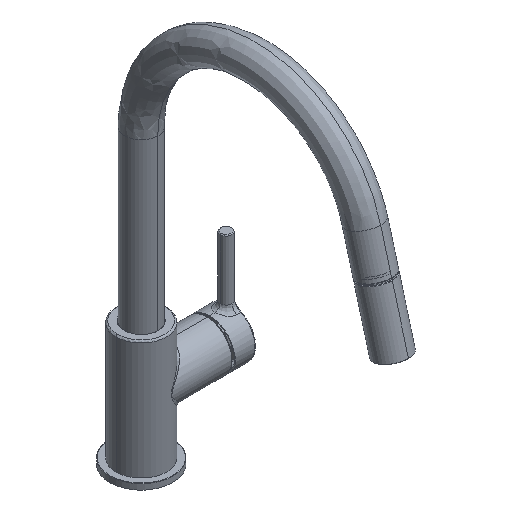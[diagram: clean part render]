
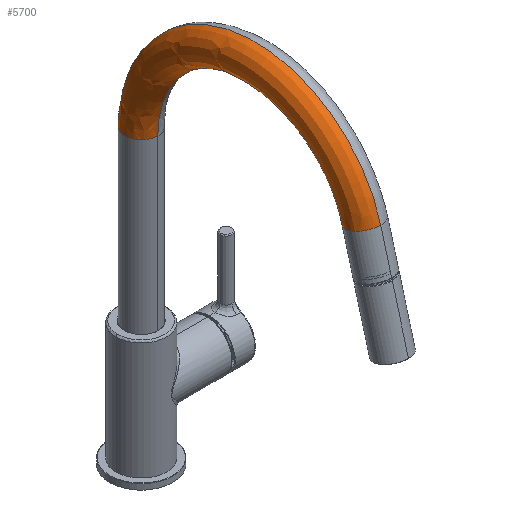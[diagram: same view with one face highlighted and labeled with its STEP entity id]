
A CAD part, isometric view. The second image highlights one B-rep face of the part: STEP entity #5700.
In plain terms, the highlighted free-form (B-spline) face has degree [2, 2] with [9, 9] control points.
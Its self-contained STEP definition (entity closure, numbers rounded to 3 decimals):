
#5700=ADVANCED_FACE('',(#11007),#86084,.T.);
#11007=FACE_OUTER_BOUND('',#16778,.T.);
#16778=EDGE_LOOP('',(#43765,#43766,#43767,#43768));
#43765=ORIENTED_EDGE('',*,*,#58449,.F.);
#43766=ORIENTED_EDGE('',*,*,#58453,.T.);
#43767=ORIENTED_EDGE('',*,*,#58452,.T.);
#43768=ORIENTED_EDGE('',*,*,#58454,.F.);
#58449=EDGE_CURVE('',#84289,#84290,#61158,.T.);
#58452=EDGE_CURVE('',#84291,#84292,#61160,.T.);
#58453=EDGE_CURVE('',#84289,#84291,#61161,.T.);
#58454=EDGE_CURVE('',#84290,#84292,#61162,.T.);
#61158=TRIMMED_CURVE($,#63514,(#244795),(#244796),.T.,.CARTESIAN.);
#61160=TRIMMED_CURVE($,#63516,(#244856),(#244857),.T.,.CARTESIAN.);
#61161=TRIMMED_CURVE($,#63517,(#244859),(#244860),.T.,.CARTESIAN.);
#61162=TRIMMED_CURVE($,#63518,(#244862),(#244863),.T.,.CARTESIAN.);
#63514=CIRCLE('',#97662,14.);
#63516=CIRCLE('',#97664,14.);
#63517=CIRCLE('',#97665,83.);
#63518=CIRCLE('',#97666,111.);
#84289=VERTEX_POINT('',#244519);
#84290=VERTEX_POINT('',#244520);
#84291=VERTEX_POINT('',#244521);
#84292=VERTEX_POINT('',#244522);
#86084=(
BOUNDED_SURFACE()
B_SPLINE_SURFACE(2,2,((#244031,#244032,#244033,#244034,#244035,#244036,
#244037,#244038,#244039),(#244040,#244041,#244042,#244043,#244044,#244045,
#244046,#244047,#244048),(#244049,#244050,#244051,#244052,#244053,#244054,
#244055,#244056,#244057),(#244058,#244059,#244060,#244061,#244062,#244063,
#244064,#244065,#244066),(#244067,#244068,#244069,#244070,#244071,#244072,
#244073,#244074,#244075),(#244076,#244077,#244078,#244079,#244080,#244081,
#244082,#244083,#244084),(#244085,#244086,#244087,#244088,#244089,#244090,
#244091,#244092,#244093),(#244094,#244095,#244096,#244097,#244098,#244099,
#244100,#244101,#244102),(#244103,#244104,#244105,#244106,#244107,#244108,
#244109,#244110,#244111)),.UNSPECIFIED.,.T.,.F.,.F.)
B_SPLINE_SURFACE_WITH_KNOTS((3,2,2,2,3),(3,2,2,2,3),(0.,152.367,
304.734,457.102,609.469),(0.,21.991,
43.982,65.973,87.965),.UNSPECIFIED.)
GEOMETRIC_REPRESENTATION_ITEM()
RATIONAL_B_SPLINE_SURFACE(((1.,0.707,1.,0.707,1.,
0.707,1.,0.707,1.),(0.707,0.5,0.707,
0.5,0.707,0.5,0.707,0.5,0.707),(1.,
0.707,1.,0.707,1.,0.707,1.,0.707,
1.),(0.707,0.5,0.707,0.5,0.707,0.5,
0.707,0.5,0.707),(1.,0.707,1.,0.707,
1.,0.707,1.,0.707,1.),(0.707,0.5,0.707,
0.5,0.707,0.5,0.707,0.5,0.707),(1.,
0.707,1.,0.707,1.,0.707,1.,0.707,
1.),(0.707,0.5,0.707,0.5,0.707,0.5,
0.707,0.5,0.707),(1.,0.707,1.,0.707,
1.,0.707,1.,0.707,1.)))
REPRESENTATION_ITEM('')
SURFACE()
);
#97662=AXIS2_PLACEMENT_3D($,#244794,#106482,#106483);
#97664=AXIS2_PLACEMENT_3D($,#244855,#106486,#106487);
#97665=AXIS2_PLACEMENT_3D($,#244858,#106488,#106489);
#97666=AXIS2_PLACEMENT_3D($,#244861,#106490,#106491);
#106482=DIRECTION('',(0.,-1.,0.));
#106483=DIRECTION('',(1.,0.,0.));
#106486=DIRECTION('',(-0.263,0.965,0.));
#106487=DIRECTION('',(-0.965,-0.263,0.));
#106488=DIRECTION('',(0.,0.,-1.));
#106489=DIRECTION('',(-1.,0.,0.));
#106490=DIRECTION('',(0.,0.,-1.));
#106491=DIRECTION('',(-1.,0.,0.));
#244031=CARTESIAN_POINT('',(208.,145.,0.));
#244032=CARTESIAN_POINT('',(208.,145.,-14.));
#244033=CARTESIAN_POINT('',(194.,145.,-14.));
#244034=CARTESIAN_POINT('',(180.,145.,-14.));
#244035=CARTESIAN_POINT('',(180.,145.,0.));
#244036=CARTESIAN_POINT('',(180.,145.,14.));
#244037=CARTESIAN_POINT('',(194.,145.,14.));
#244038=CARTESIAN_POINT('',(208.,145.,14.));
#244039=CARTESIAN_POINT('',(208.,145.,0.));
#244040=CARTESIAN_POINT('',(208.,34.,0.));
#244041=CARTESIAN_POINT('',(208.,34.,-14.));
#244042=CARTESIAN_POINT('',(194.,48.,-14.));
#244043=CARTESIAN_POINT('',(180.,62.,-14.));
#244044=CARTESIAN_POINT('',(180.,62.,0.));
#244045=CARTESIAN_POINT('',(180.,62.,14.));
#244046=CARTESIAN_POINT('',(194.,48.,14.));
#244047=CARTESIAN_POINT('',(208.,34.,14.));
#244048=CARTESIAN_POINT('',(208.,34.,0.));
#244049=CARTESIAN_POINT('',(97.,34.,0.));
#244050=CARTESIAN_POINT('',(97.,34.,-14.));
#244051=CARTESIAN_POINT('',(97.,48.,-14.));
#244052=CARTESIAN_POINT('',(97.,62.,-14.));
#244053=CARTESIAN_POINT('',(97.,62.,0.));
#244054=CARTESIAN_POINT('',(97.,62.,14.));
#244055=CARTESIAN_POINT('',(97.,48.,14.));
#244056=CARTESIAN_POINT('',(97.,34.,14.));
#244057=CARTESIAN_POINT('',(97.,34.,0.));
#244058=CARTESIAN_POINT('',(-14.,34.,0.));
#244059=CARTESIAN_POINT('',(-14.,34.,-14.));
#244060=CARTESIAN_POINT('',(0.,48.,-14.));
#244061=CARTESIAN_POINT('',(14.,62.,-14.));
#244062=CARTESIAN_POINT('',(14.,62.,0.));
#244063=CARTESIAN_POINT('',(14.,62.,14.));
#244064=CARTESIAN_POINT('',(0.,48.,14.));
#244065=CARTESIAN_POINT('',(-14.,34.,14.));
#244066=CARTESIAN_POINT('',(-14.,34.,0.));
#244067=CARTESIAN_POINT('',(-14.,145.,0.));
#244068=CARTESIAN_POINT('',(-14.,145.,-14.));
#244069=CARTESIAN_POINT('',(0.,145.,-14.));
#244070=CARTESIAN_POINT('',(14.,145.,-14.));
#244071=CARTESIAN_POINT('',(14.,145.,0.));
#244072=CARTESIAN_POINT('',(14.,145.,14.));
#244073=CARTESIAN_POINT('',(0.,145.,14.));
#244074=CARTESIAN_POINT('',(-14.,145.,14.));
#244075=CARTESIAN_POINT('',(-14.,145.,0.));
#244076=CARTESIAN_POINT('',(-14.,256.,0.));
#244077=CARTESIAN_POINT('',(-14.,256.,-14.));
#244078=CARTESIAN_POINT('',(0.,242.,-14.));
#244079=CARTESIAN_POINT('',(14.,228.,-14.));
#244080=CARTESIAN_POINT('',(14.,228.,0.));
#244081=CARTESIAN_POINT('',(14.,228.,14.));
#244082=CARTESIAN_POINT('',(0.,242.,14.));
#244083=CARTESIAN_POINT('',(-14.,256.,14.));
#244084=CARTESIAN_POINT('',(-14.,256.,0.));
#244085=CARTESIAN_POINT('',(97.,256.,0.));
#244086=CARTESIAN_POINT('',(97.,256.,-14.));
#244087=CARTESIAN_POINT('',(97.,242.,-14.));
#244088=CARTESIAN_POINT('',(97.,228.,-14.));
#244089=CARTESIAN_POINT('',(97.,228.,0.));
#244090=CARTESIAN_POINT('',(97.,228.,14.));
#244091=CARTESIAN_POINT('',(97.,242.,14.));
#244092=CARTESIAN_POINT('',(97.,256.,14.));
#244093=CARTESIAN_POINT('',(97.,256.,0.));
#244094=CARTESIAN_POINT('',(208.,256.,0.));
#244095=CARTESIAN_POINT('',(208.,256.,-14.));
#244096=CARTESIAN_POINT('',(194.,242.,-14.));
#244097=CARTESIAN_POINT('',(180.,228.,-14.));
#244098=CARTESIAN_POINT('',(180.,228.,0.));
#244099=CARTESIAN_POINT('',(180.,228.,14.));
#244100=CARTESIAN_POINT('',(194.,242.,14.));
#244101=CARTESIAN_POINT('',(208.,256.,14.));
#244102=CARTESIAN_POINT('',(208.,256.,0.));
#244103=CARTESIAN_POINT('',(208.,145.,0.));
#244104=CARTESIAN_POINT('',(208.,145.,-14.));
#244105=CARTESIAN_POINT('',(194.,145.,-14.));
#244106=CARTESIAN_POINT('',(180.,145.,-14.));
#244107=CARTESIAN_POINT('',(180.,145.,0.));
#244108=CARTESIAN_POINT('',(180.,145.,14.));
#244109=CARTESIAN_POINT('',(194.,145.,14.));
#244110=CARTESIAN_POINT('',(208.,145.,14.));
#244111=CARTESIAN_POINT('',(208.,145.,0.));
#244519=CARTESIAN_POINT('',(14.,145.,0.));
#244520=CARTESIAN_POINT('',(-14.,145.,0.));
#244521=CARTESIAN_POINT('',(177.074,166.845,0.));
#244522=CARTESIAN_POINT('',(204.087,174.214,0.));
#244794=CARTESIAN_POINT('',(0.,145.,0.));
#244795=CARTESIAN_POINT('',(14.,145.,0.));
#244796=CARTESIAN_POINT('',(-14.,145.,0.));
#244855=CARTESIAN_POINT('',(190.58,170.529,0.));
#244856=CARTESIAN_POINT('',(177.074,166.845,0.));
#244857=CARTESIAN_POINT('',(204.087,174.214,0.));
#244858=CARTESIAN_POINT('',(97.,145.,0.));
#244859=CARTESIAN_POINT('',(14.,145.,0.));
#244860=CARTESIAN_POINT('',(177.074,166.845,0.));
#244861=CARTESIAN_POINT('',(97.,145.,0.));
#244862=CARTESIAN_POINT('',(-14.,145.,0.));
#244863=CARTESIAN_POINT('',(204.087,174.214,0.));
